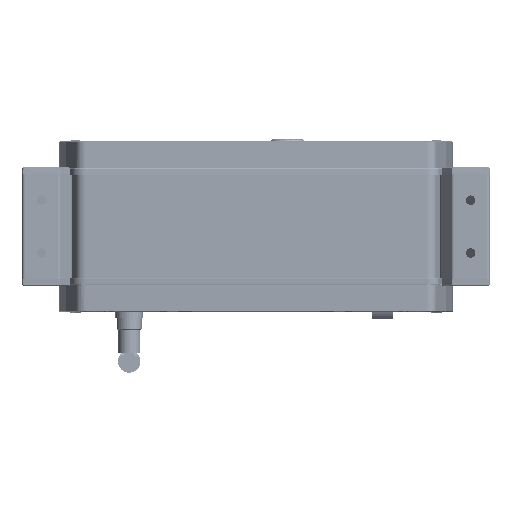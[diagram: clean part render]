
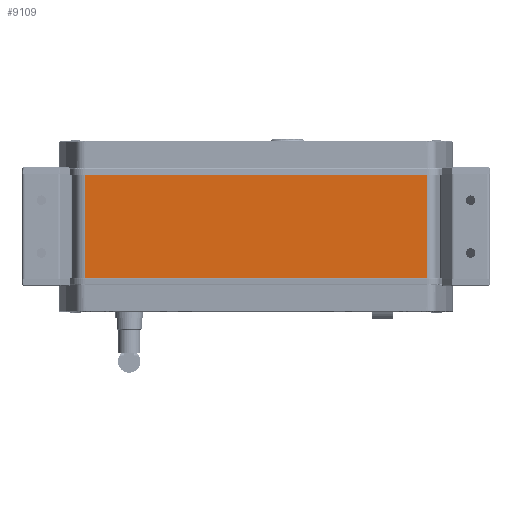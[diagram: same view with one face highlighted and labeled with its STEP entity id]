
A CAD part, front view. The second image highlights one B-rep face of the part: STEP entity #9109.
In plain terms, the highlighted free-form (B-spline) face has degree [1, 1] with [2, 2] control points.
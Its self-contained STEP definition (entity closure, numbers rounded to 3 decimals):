
#158=DIRECTION('',(-1.,0.,0.));
#159=VECTOR('',#158,161.601);
#160=CARTESIAN_POINT('',(80.801,-26.3,-75.));
#161=LINE('',#160,#159);
#3728=DIRECTION('',(0.,0.,1.));
#3729=VECTOR('',#3728,50.);
#3730=CARTESIAN_POINT('',(-80.801,-26.3,-75.));
#3731=LINE('',#3730,#3729);
#3735=DIRECTION('',(1.,0.,0.));
#3736=VECTOR('',#3735,161.601);
#3737=CARTESIAN_POINT('',(-80.801,-26.3,-25.));
#3738=LINE('',#3737,#3736);
#3750=DIRECTION('',(0.,0.,-1.));
#3751=VECTOR('',#3750,50.);
#3752=CARTESIAN_POINT('',(80.801,-26.3,-25.));
#3753=LINE('',#3752,#3751);
#5271=CARTESIAN_POINT('',(80.801,-26.3,-75.));
#5272=VERTEX_POINT('',#5271);
#5273=CARTESIAN_POINT('',(-80.801,-26.3,-75.));
#5274=VERTEX_POINT('',#5273);
#6138=CARTESIAN_POINT('',(80.801,-26.3,-25.));
#6140=VERTEX_POINT('',#6138);
#6141=CARTESIAN_POINT('',(-80.801,-26.3,-25.));
#6143=VERTEX_POINT('',#6141);
#9097=CARTESIAN_POINT('',(-84.033,-26.3,-24.));
#9098=CARTESIAN_POINT('',(84.033,-26.3,-24.));
#9099=CARTESIAN_POINT('',(-84.033,-26.3,-76.));
#9100=CARTESIAN_POINT('',(84.033,-26.3,-76.));
#9101=B_SPLINE_SURFACE_WITH_KNOTS('',1,1,((#9097,#9098),(#9099,#9100)),
.UNSPECIFIED.,.F.,.F.,.F.,(2,2),(2,2),(24.,76.),(-167.878,
0.188),.UNSPECIFIED.);
#9102=ORIENTED_EDGE('',*,*,#6206,.T.);
#9104=ORIENTED_EDGE('',*,*,#9103,.T.);
#9105=ORIENTED_EDGE('',*,*,#6963,.T.);
#9106=ORIENTED_EDGE('',*,*,#9090,.T.);
#9107=EDGE_LOOP('',(#9102,#9104,#9105,#9106));
#9108=FACE_OUTER_BOUND('',#9107,.F.);
#6206=EDGE_CURVE('',#6143,#6140,#3738,.T.);
#6963=EDGE_CURVE('',#5272,#5274,#161,.T.);
#9090=EDGE_CURVE('',#5274,#6143,#3731,.T.);
#9103=EDGE_CURVE('',#6140,#5272,#3753,.T.);
#9109=ADVANCED_FACE('',(#9108),#9101,.T.);
